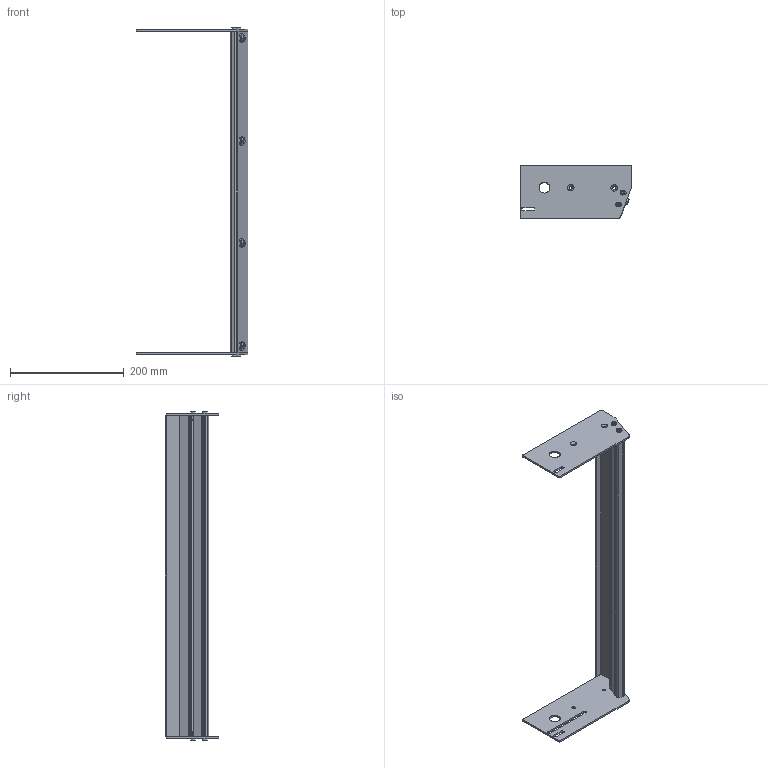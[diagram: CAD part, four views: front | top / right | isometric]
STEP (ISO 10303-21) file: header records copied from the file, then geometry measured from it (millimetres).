
FILE_DESCRIPTION((''),'2;1');
FILE_NAME('351199-22_ASM','2023-03-15T',('jenni.wallner'),(''),'PRO/ENGINEER BY PARAMETRIC TECHNOLOGY CORPORATION, 2012420','PRO/ENGINEER BY PARAMETRIC TECHNOLOGY CORPORATION, 2012420','');
FILE_SCHEMA(('CONFIG_CONTROL_DESIGN'));
Length unit declared in the file: inch
Products named in the file (10): 990603M; 9506XXM_950612M; 351200_DEFAULT_AS_MACHINED_; 605279P; 9505XXM_950512M; 351202-WW_351202-22; 351203-WW_351203-22; 351201; ASM0001_ASM; 351199-22_ASM
Assembly tree (21 placements, depth 3):
  351199-22_ASM
    ASM0001_ASM
      990603M  x4
      9506XXM_950612M  x4
      351200_DEFAULT_AS_MACHINED_
      605279P  x4
      9505XXM_950512M  x4
      351202-WW_351202-22
      351203-WW_351203-22
      351201
Bounding box: 196.11 x 93.08 x 577.89 mm (x, y, z)
Volume: 329446.6 mm3; surface area: 265576.8 mm2
Topology: 20 solids, 20 shells, 419 faces, 995 edges, 632 vertices
Faces by surface type: plane 190, cylinder 145, cone 84
Entity records: 7961 total; most frequent: CARTESIAN_POINT 1479, DIRECTION 1422, ORIENTED_EDGE 1240, EDGE_CURVE 620, AXIS2_PLACEMENT_3D 535, VERTEX_POINT 404, VECTOR 352, LINE 352
